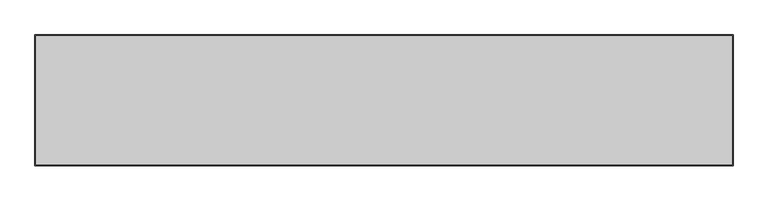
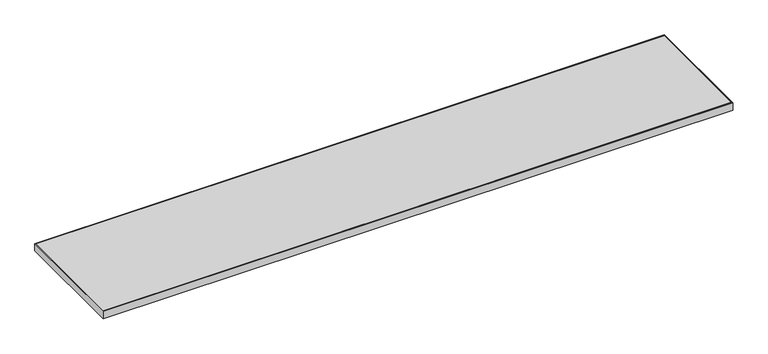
"""IFC4 building model written with IfcOpenShell, lengths in millimetres: furniture geometry, Steelcase - Universal Storage - Square Edge Top - Flush Front - Laminate : Common Top - 18D x 96W."""

from ifc_helpers import new_model, si_unit, frame, origin, place, context, project, spatial, polyline, outline, extrude, source, transform, mapped, element, save


def furniture_cec81312(model_context):
    return source(origin(), model_context, "Body", "SweptSolid", [
        extrude(outline(polyline([(2435.3520001, -3.0479999), (2435.3520001, -454.1520001), (3.0479999, -454.1520001), (3.0479999, -3.0479999), (2435.3520001, -3.0479999)])), frame((0.0, 0.0, 680.72), z_axis=(0.0, 0.0, 1.0), x_axis=(1.0, 0.0, 0.0)), (0.0, 0.0, 1.0), 30.48),
        extrude(outline(polyline([(2438.4, 0.0), (2438.4, -457.2), (0.0, -457.2), (0.0, 0.0), (2438.4, 0.0)]), holes=[polyline([(2435.3520001, -3.0479999), (3.0479999, -3.0479999), (3.0479999, -454.1520001), (2435.3520001, -454.1520001), (2435.3520001, -3.0479999)])]), frame((0.0, 0.0, 680.72), z_axis=(0.0, 0.0, 1.0), x_axis=(1.0, 0.0, 0.0)), (0.0, 0.0, 1.0), 30.48),
    ])


if __name__ == "__main__":
    model = new_model("IFC4")
    model_context = context("Model", 3, world=origin())
    ifc_project = project(units=[si_unit("LENGTHUNIT", "METRE", prefix="MILLI")], contexts=[model_context])
    site = spatial("IfcSite", under=ifc_project)
    building = spatial("IfcBuilding", under=site)
    placement = place(None, origin())
    furniture_shape = furniture_cec81312(model_context)
    element("IfcFurniture", 1, ObjectType="Steelcase - Universal Storage - Square Edge Top - Flush Front - Laminate : Common Top - 18D x 96W", at=placement, inside=building, context=model_context, shape_type="MappedRepresentation", body=[
        mapped(furniture_shape, transform((0.0, 0.0, 0.0), x_axis=(1.0, 0.0, 0.0), y_axis=(0.0, 1.0, 0.0), z_axis=(0.0, 0.0, 1.0))),
    ])
    save(model, "model.ifc")
